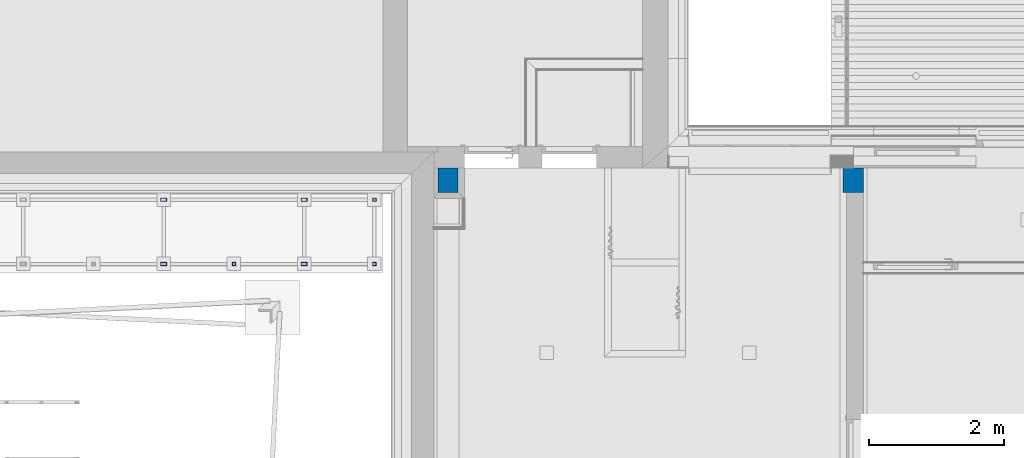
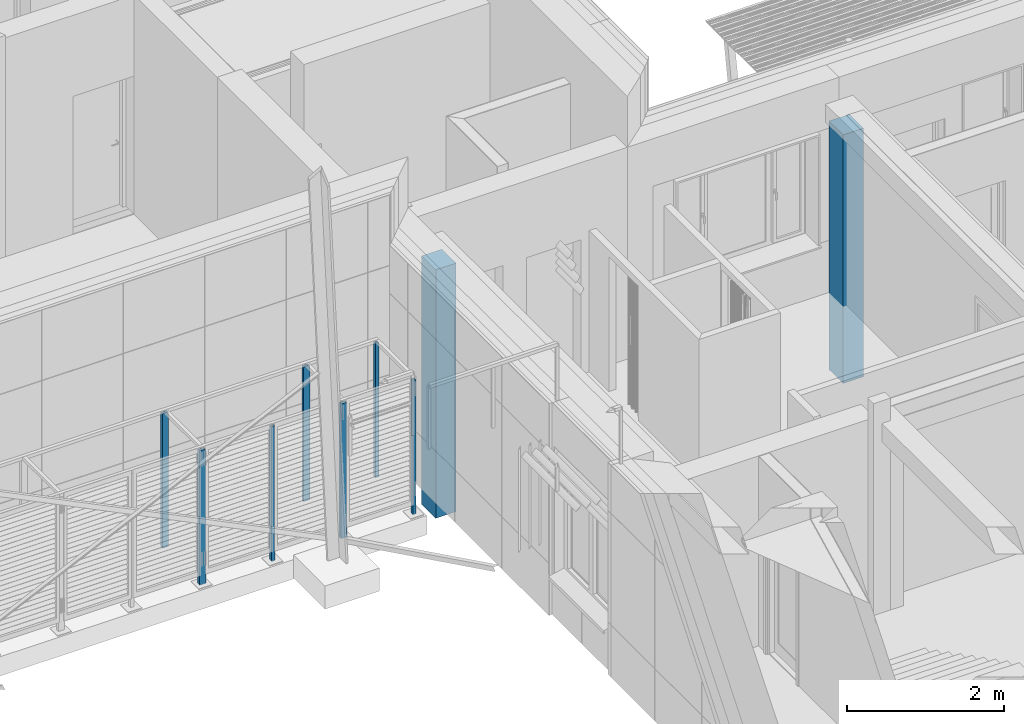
# One storey, part 4 of 418: 9 columns.
"""IFC2X3 building model written with IfcOpenShell, lengths in millimetres."""

from ifc_helpers import new_model, entity, si_unit, converted_unit, derived_unit, money_unit, direction, frame, origin_with_axes, origin_2d_with_axis, place, context, subcontext, project, spatial, polyline, rectangle, outline, extrude, material, type_object, element, save


model = new_model("IFC2X3")

# Units and contexts
model_context = context("Model", 3, precision=0.01, world=origin_with_axes(), true_north=direction((0.0, 1.0)))
body_context = subcontext(model_context, "Body", "Model", "MODEL_VIEW")
ifc_project = project(units=[si_unit("LENGTHUNIT", "METRE", prefix="MILLI"), si_unit("AREAUNIT", "SQUARE_METRE"), si_unit("VOLUMEUNIT", "CUBIC_METRE"), converted_unit("PLANEANGLEUNIT", "DEGREE", entity("IfcPlaneAngleMeasure", 0.0174532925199), si_unit("PLANEANGLEUNIT", "RADIAN"), dimensions=[0, 0, 0, 0, 0, 0, 0]), si_unit("SOLIDANGLEUNIT", "STERADIAN"), money_unit("EUR"), converted_unit("TIMEUNIT", "Year", entity("IfcTimeMeasure", 31556926.0), si_unit("TIMEUNIT", "SECOND"), dimensions=[0, 0, 1, 0, 0, 0, 0]), si_unit("MASSUNIT", "GRAM", prefix="KILO"), si_unit("THERMODYNAMICTEMPERATUREUNIT", "DEGREE_CELSIUS"), si_unit("LUMINOUSINTENSITYUNIT", "LUMEN"), si_unit("ENERGYUNIT", "JOULE", prefix="MEGA"), derived_unit("THERMALCONDUCTANCEUNIT", [(si_unit("POWERUNIT", "WATT"), 1), (si_unit("LENGTHUNIT", "METRE"), -1), (si_unit("THERMODYNAMICTEMPERATUREUNIT", "KELVIN"), -1)]), derived_unit("SPECIFICHEATCAPACITYUNIT", [(si_unit("ENERGYUNIT", "JOULE"), 1), (si_unit("MASSUNIT", "GRAM", prefix="KILO"), -1), (si_unit("THERMODYNAMICTEMPERATUREUNIT", "KELVIN"), -1)]), derived_unit("MASSDENSITYUNIT", [(si_unit("MASSUNIT", "GRAM", prefix="KILO"), 1), (si_unit("VOLUMEUNIT", "CUBIC_METRE"), -1)])], contexts=[model_context])

# Site, building, storey
site_placement = place(None, origin_with_axes())
site = spatial("IfcSite", under=ifc_project, at=site_placement, Name="Paldiski mnt 245/1, Tallinn, Harjumaa", CompositionType="COMPLEX")
building_placement = place(site_placement, origin_with_axes())
building = spatial("IfcBuilding", under=site, at=building_placement, Name="RKAS Hoone üldnimetus (kasutust iseloomustav) -> IFC Project Manager -> SOLIBRI", CompositionType="ELEMENT")
storey_placement = place(building_placement, origin_with_axes())
storey = spatial("IfcBuildingStorey", under=building, at=storey_placement, Name="Esimene korrus", CompositionType="ELEMENT", Elevation=0.0)

# Columns
ifc_material_1 = material(Name="KON-00_GENEERILINE - KONSTRUKTSIOON")
column_type_1 = type_object("IfcColumnType", Name="KON-00_GENEERILINE - KONSTRUKTSIOON 300 x 360", PredefinedType="COLUMN")
for number, where, z_axis, x_axis, name in (
    (1, (-41440.0, -289.999999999, -1200.0), (0.0, 0.0, 1.0), (1.0, 0.0, 0.0), "POST"),
    (2, (-47440.0, -289.999999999, -1200.0), (0.0, 0.0, 1.0), (1.0, 0.0, 0.0), "POST"),
):
    element("IfcColumn", number, at=place(storey_placement, frame(where, z_axis=z_axis, x_axis=x_axis)), inside=storey, type_object=column_type_1, material=ifc_material_1, Name=name, ObjectType="COLUMN", context=body_context, shape_type="SweptSolid", body=[
        extrude(rectangle(XDim=300.0, YDim=360.0, at=origin_2d_with_axis()), origin_with_axes(), (0.0, 0.0, 1.0), 3870.0),
    ])
ifc_material_2 = material(Name="VKR-04_Tellis")
column_type_2 = type_object("IfcColumnType", Name="RHS90X50X5 50 x 90", PredefinedType="COLUMN")
for number, where, z_axis, x_axis in (
    (3, (-51650.0, -1530.71022117, -150.0), (0.0, 0.0, 1.0), (0.0, -1.0, 0.0)),
    (4, (-49570.0, -1530.71022117, -150.0), (0.0, 0.0, 1.0), (0.0, -1.0, 0.0)),
    (5, (-49569.0, -580.710221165, -150.0), (0.0, 0.0, 1.0), (0.0, -1.0, 0.0)),
    (6, (-51649.0, -580.710221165, -150.0), (0.0, 0.0, 1.0), (0.0, -1.0, 0.0)),
):
    element("IfcColumn", number, at=place(storey_placement, frame(where, z_axis=z_axis, x_axis=x_axis)), inside=storey, type_object=column_type_2, material=ifc_material_2, Name="Teraspost", ObjectType="COLUMN", context=body_context, shape_type="SweptSolid", body=[
        extrude(outline(polyline([(-25.0, -45.0), (25.0, -45.0), (25.0, 45.0), (-25.0, 45.0), (-25.0, -45.0)]), holes=[polyline([(-20.0, -40.0), (-20.0, 40.0), (20.0, 40.0), (20.0, -40.0), (-20.0, -40.0)])]), origin_with_axes(), (0.0, 0.0, 1.0), 2095.0),
    ])
column_type_3 = type_object("IfcColumnType", Name="CFRHS50X50X5 50 x 50", PredefinedType="COLUMN")
column_placement = place(storey_placement, frame((-50610.0, -1530.71022117, -150.0), z_axis=(0.0, 0.0, 1.0), x_axis=(1.0, 0.0, 0.0)))
element("IfcColumn", 7, at=column_placement, inside=storey, type_object=column_type_3, material=ifc_material_2, Name="Teraspost", ObjectType="COLUMN", context=body_context, shape_type="SweptSolid", body=[
    extrude(outline(polyline([(-25.0, -25.0), (25.0, -25.0), (25.0, 25.0), (-25.0, 25.0), (-25.0, -25.0)]), holes=[polyline([(-20.0, -20.0), (-20.0, 20.0), (20.0, 20.0), (20.0, -20.0), (-20.0, -20.0)])]), origin_with_axes(), (0.0, 0.0, 1.0), 2095.0),
])
for number, where, z_axis, x_axis in (
    (8, (-48530.4231231, -1530.71022117, -150.0), (0.0, 0.0, 1.0), (1.0, 0.0, 0.0)),
    (9, (-48529.4231231, -580.710221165, -150.0), (0.0, 0.0, 1.0), (1.0, 0.0, 0.0)),
):
    element("IfcColumn", number, at=place(storey_placement, frame(where, z_axis=z_axis, x_axis=x_axis)), inside=storey, type_object=column_type_3, material=ifc_material_2, Name="Teraspost", ObjectType="COLUMN", context=body_context, shape_type="SweptSolid", body=[
        extrude(outline(polyline([(-25.0, -25.0), (25.0, -25.0), (25.0, 25.0), (-25.0, 25.0), (-25.0, -25.0)]), holes=[polyline([(-20.0, -20.0), (-20.0, 20.0), (20.0, 20.0), (20.0, -20.0), (-20.0, -20.0)])]), frame((0.0, 0.0, 0.0), z_axis=(0.0, 0.0, -1.0), x_axis=(-1.0, 0.0, 0.0)), (0.0, 0.0, -1.0), 2095.0),
    ])

save(model, "model.ifc")
